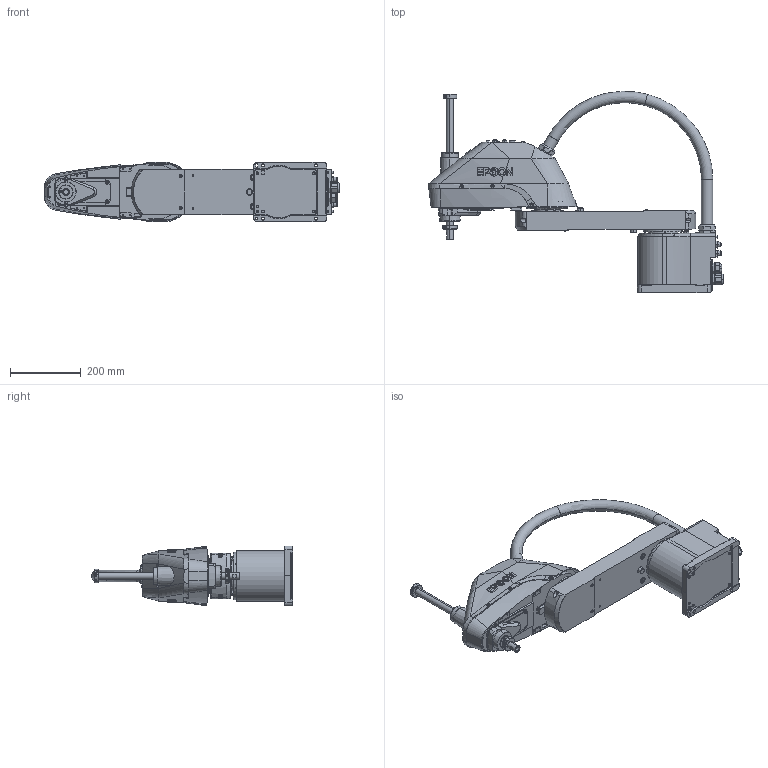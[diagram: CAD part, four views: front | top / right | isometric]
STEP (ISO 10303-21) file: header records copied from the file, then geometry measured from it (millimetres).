
FILE_DESCRIPTION (( 'STEP AP214' ), '1' );
FILE_NAME ('LS8-x602S.STEP', '2026-07-16T17:27:02', ( '' ), ( '' ), 'SwSTEP 2.0', 'SolidWorks 2020', '' );
FILE_SCHEMA (( 'AUTOMOTIVE_DESIGN' ));
Length unit declared in the file: millimetre
Products named in the file (5): LS8-x602S; LS8-CX02X_600__ARM1_1; LS8-CX02S_600__HOUSING; LS8-CX02S_Z_AXIS_1; LS8-CX02S_BOX__1
Assembly tree (4 placements, depth 2):
  LS8-x602S
    LS8-CX02S_BOX__1
    LS8-CX02X_600__ARM1_1
    LS8-CX02S_600__HOUSING
    LS8-CX02S_Z_AXIS_1
Bounding box: 833.25 x 567.12 x 169 mm (x, y, z)
Volume: 8058114.1 mm3; surface area: 855283.8 mm2
Topology: 3 solids, 4 shells, 2491 faces, 6348 edges, 4114 vertices
Faces by surface type: cylinder 1059, plane 959, cone 244, torus 108, bspline 61, sphere 60
Entity records: 107904 total; most frequent: CARTESIAN_POINT 43302, ORIENTED_EDGE 12658, DIRECTION 8693, EDGE_CURVE 6331, VERTEX_POINT 4114, B_SPLINE_CURVE_WITH_KNOTS 3730, AXIS2_PLACEMENT_3D 3663, EDGE_LOOP 2792
